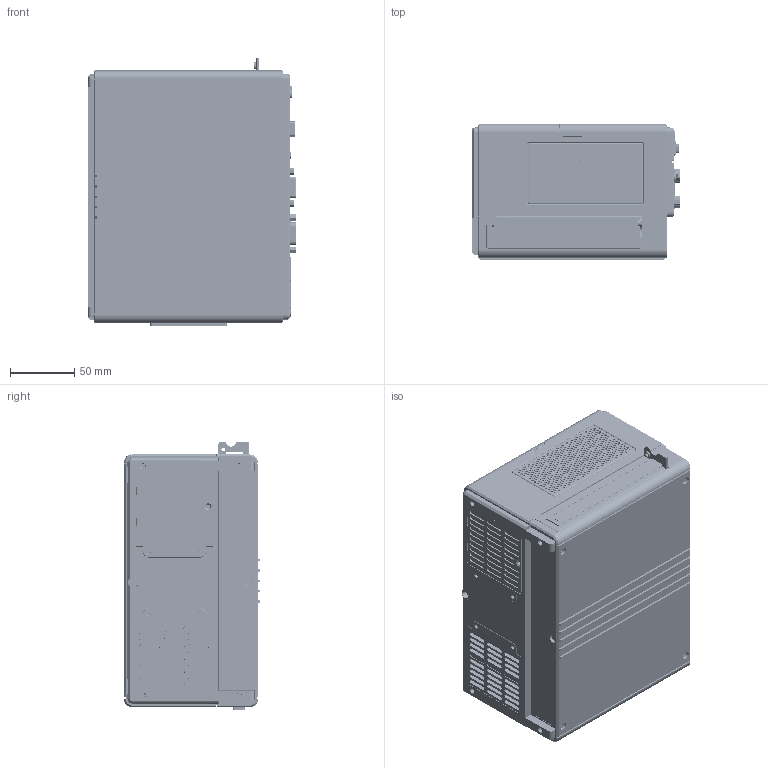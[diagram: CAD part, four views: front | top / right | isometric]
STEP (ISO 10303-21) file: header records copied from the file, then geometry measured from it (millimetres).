
FILE_DESCRIPTION((''),'2;1');
FILE_NAME('0-M_MODULE_ASM_186_ASM_1_ASM_1','2020-05-11T16:22:06',('wanggangqiang'),(''),'CREO PARAMETRIC BY PTC INC, 2017260','CREO PARAMETRIC BY PTC INC, 2017260','');
FILE_SCHEMA(('CONFIG_CONTROL_DESIGN'));
Products named in the file (1): 0-M_MODULE_ASM_186_ASM_1_ASM_1
Bounding box: 161.57 x 105.5 x 208.5 mm (x, y, z)
Volume: 2871567.1 mm3; surface area: 311911.1 mm2
Topology: 1 solids, 35 shells, 8897 faces, 25116 edges, 16319 vertices
Faces by surface type: plane 4714, cylinder 3426, bspline 214, cone 212, torus 185, extrusion 92, sphere 54
Entity records: 304189 total; most frequent: CARTESIAN_POINT 65665, ORIENTED_EDGE 50120, DIRECTION 48673, EDGE_CURVE 25060, VERTEX_POINT 16319, VECTOR 16307, LINE 16215, AXIS2_PLACEMENT_3D 16183
